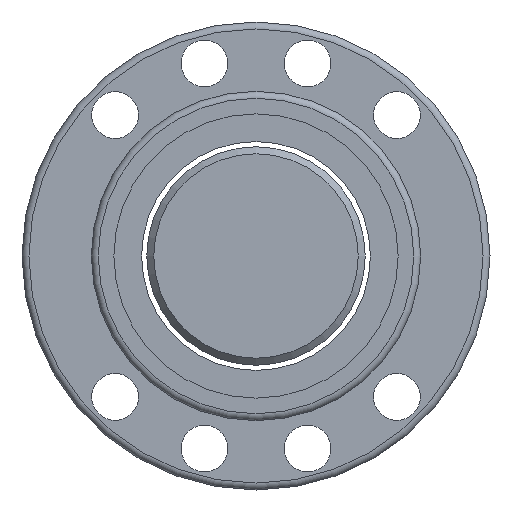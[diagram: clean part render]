
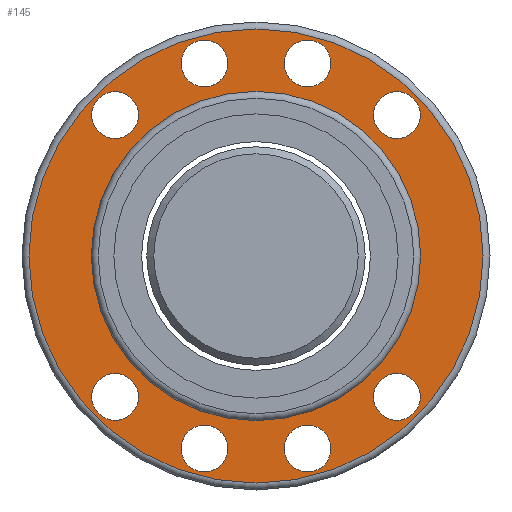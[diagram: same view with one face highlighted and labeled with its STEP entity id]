
A CAD part, left-side view. The second image highlights one B-rep face of the part: STEP entity #145.
In plain terms, the highlighted planar face has unit normal (-1, 0, 0).
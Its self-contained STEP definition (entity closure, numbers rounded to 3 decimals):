
#114=PLANE('',#576);
#127=FACE_OUTER_BOUND('',#286,.T.);
#145=ADVANCED_FACE('',(#200,#201,#202,#203,#204,#205,#206,#207,#208,#127),
#114,.T.);
#200=FACE_BOUND('',#277,.T.);
#201=FACE_BOUND('',#278,.T.);
#202=FACE_BOUND('',#279,.T.);
#203=FACE_BOUND('',#280,.T.);
#204=FACE_BOUND('',#281,.T.);
#205=FACE_BOUND('',#282,.T.);
#206=FACE_BOUND('',#283,.T.);
#207=FACE_BOUND('',#284,.T.);
#208=FACE_BOUND('',#285,.T.);
#277=EDGE_LOOP('',(#359));
#278=EDGE_LOOP('',(#360));
#279=EDGE_LOOP('',(#361));
#280=EDGE_LOOP('',(#362));
#281=EDGE_LOOP('',(#363));
#282=EDGE_LOOP('',(#364));
#283=EDGE_LOOP('',(#365));
#284=EDGE_LOOP('',(#366));
#285=EDGE_LOOP('',(#367));
#286=EDGE_LOOP('',(#368));
#359=ORIENTED_EDGE('',*,*,#470,.F.);
#360=ORIENTED_EDGE('',*,*,#471,.F.);
#361=ORIENTED_EDGE('',*,*,#472,.F.);
#362=ORIENTED_EDGE('',*,*,#473,.F.);
#363=ORIENTED_EDGE('',*,*,#474,.F.);
#364=ORIENTED_EDGE('',*,*,#475,.F.);
#365=ORIENTED_EDGE('',*,*,#476,.F.);
#366=ORIENTED_EDGE('',*,*,#477,.F.);
#367=ORIENTED_EDGE('',*,*,#478,.T.);
#368=ORIENTED_EDGE('',*,*,#479,.F.);
#429=VERTEX_POINT('',#807);
#430=VERTEX_POINT('',#809);
#431=VERTEX_POINT('',#811);
#432=VERTEX_POINT('',#813);
#433=VERTEX_POINT('',#815);
#434=VERTEX_POINT('',#817);
#435=VERTEX_POINT('',#819);
#436=VERTEX_POINT('',#821);
#437=VERTEX_POINT('',#823);
#438=VERTEX_POINT('',#825);
#470=EDGE_CURVE('',#429,#429,#511,.T.);
#471=EDGE_CURVE('',#430,#430,#512,.T.);
#472=EDGE_CURVE('',#431,#431,#513,.T.);
#473=EDGE_CURVE('',#432,#432,#514,.T.);
#474=EDGE_CURVE('',#433,#433,#515,.T.);
#475=EDGE_CURVE('',#434,#434,#516,.T.);
#476=EDGE_CURVE('',#435,#435,#517,.T.);
#477=EDGE_CURVE('',#436,#436,#518,.T.);
#478=EDGE_CURVE('',#437,#437,#519,.T.);
#479=EDGE_CURVE('',#438,#438,#520,.T.);
#511=CIRCLE('',#566,6.75);
#512=CIRCLE('',#567,6.75);
#513=CIRCLE('',#568,6.75);
#514=CIRCLE('',#569,6.75);
#515=CIRCLE('',#570,6.75);
#516=CIRCLE('',#571,6.75);
#517=CIRCLE('',#572,6.75);
#518=CIRCLE('',#573,6.75);
#519=CIRCLE('',#574,47.5);
#520=CIRCLE('',#575,65.5);
#566=AXIS2_PLACEMENT_3D('',#806,#668,#669);
#567=AXIS2_PLACEMENT_3D('',#808,#670,#671);
#568=AXIS2_PLACEMENT_3D('',#810,#672,#673);
#569=AXIS2_PLACEMENT_3D('',#812,#674,#675);
#570=AXIS2_PLACEMENT_3D('',#814,#676,#677);
#571=AXIS2_PLACEMENT_3D('',#816,#678,#679);
#572=AXIS2_PLACEMENT_3D('',#818,#680,#681);
#573=AXIS2_PLACEMENT_3D('',#820,#682,#683);
#574=AXIS2_PLACEMENT_3D('',#822,#684,#685);
#575=AXIS2_PLACEMENT_3D('',#824,#686,#687);
#576=AXIS2_PLACEMENT_3D('',#826,#688,#689);
#668=DIRECTION('',(-1.,0.,0.));
#669=DIRECTION('',(0.,0.,1.));
#670=DIRECTION('',(-1.,0.,0.));
#671=DIRECTION('',(0.,0.,1.));
#672=DIRECTION('',(-1.,0.,0.));
#673=DIRECTION('',(0.,0.,1.));
#674=DIRECTION('',(-1.,0.,0.));
#675=DIRECTION('',(0.,0.,1.));
#676=DIRECTION('',(-1.,0.,0.));
#677=DIRECTION('',(0.,0.,1.));
#678=DIRECTION('',(-1.,0.,0.));
#679=DIRECTION('',(0.,0.,1.));
#680=DIRECTION('',(-1.,0.,0.));
#681=DIRECTION('',(0.,0.,1.));
#682=DIRECTION('',(-1.,0.,0.));
#683=DIRECTION('',(0.,0.,1.));
#684=DIRECTION('',(1.,0.,0.));
#685=DIRECTION('',(0.,0.,-1.));
#686=DIRECTION('',(1.,0.,0.));
#687=DIRECTION('',(0.,0.,-1.));
#688=DIRECTION('',(-1.,0.,0.));
#689=DIRECTION('',(0.,0.,1.));
#806=CARTESIAN_POINT('',(-40.,40.66,-40.66));
#807=CARTESIAN_POINT('',(-40.,40.66,-33.91));
#808=CARTESIAN_POINT('',(-40.,40.66,40.66));
#809=CARTESIAN_POINT('',(-40.,40.66,47.41));
#810=CARTESIAN_POINT('',(-40.,-40.66,40.66));
#811=CARTESIAN_POINT('',(-40.,-40.66,47.41));
#812=CARTESIAN_POINT('',(-40.,-40.66,-40.66));
#813=CARTESIAN_POINT('',(-40.,-40.66,-33.91));
#814=CARTESIAN_POINT('',(-40.,14.88,-55.54));
#815=CARTESIAN_POINT('',(-40.,14.88,-48.79));
#816=CARTESIAN_POINT('',(-40.,-14.88,-55.54));
#817=CARTESIAN_POINT('',(-40.,-14.88,-48.79));
#818=CARTESIAN_POINT('',(-40.,-14.88,55.54));
#819=CARTESIAN_POINT('',(-40.,-14.88,62.29));
#820=CARTESIAN_POINT('',(-40.,14.88,55.54));
#821=CARTESIAN_POINT('',(-40.,14.88,62.29));
#822=CARTESIAN_POINT('',(-40.,0.,0.));
#823=CARTESIAN_POINT('',(-40.,0.,-47.5));
#824=CARTESIAN_POINT('',(-40.,0.,0.));
#825=CARTESIAN_POINT('',(-40.,0.,-65.5));
#826=CARTESIAN_POINT('',(-40.,56.5,0.));
